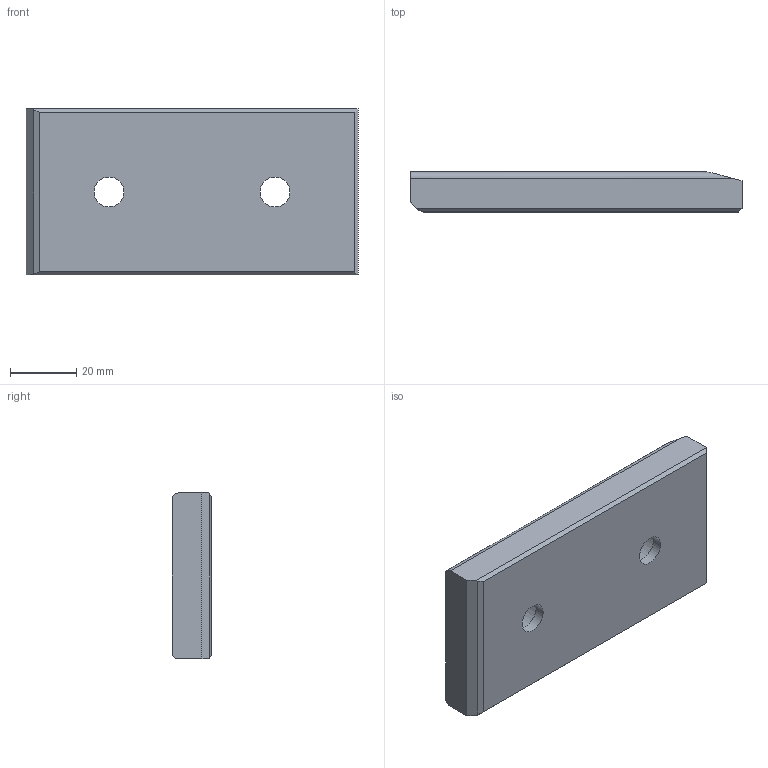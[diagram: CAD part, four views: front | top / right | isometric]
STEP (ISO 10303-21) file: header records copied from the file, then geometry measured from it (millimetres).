
FILE_DESCRIPTION(/* description */ ('Impex Ready, www.impex-ready.pl'),/* implementation_level */ '2;1');
FILE_NAME(/* name */ 'C:\Users\VIKKY\Nextcloud\SM\projekt 10 - części na stronę internetową\Pliki_3D_new\316 Płytki PG07\316 PG07_STEP\PG07.050100.ipt.step',/* time_stamp */ '2021-12-17T17:40:54+01:00',/* author */ ('SM'),/* organization */ (''),/* preprocessor_version */ 'ST-DEVELOPER v18.1',/* originating_system */ 'Autodesk Inventor 2021',/* authorisation */ '');
FILE_SCHEMA (('AUTOMOTIVE_DESIGN { 1 0 10303 214 3 1 1 }'));
Length unit declared in the file: millimetre
Products named in the file (1): PG07.050100
Bounding box: 100 x 12 x 50 mm (x, y, z)
Volume: 55159.7 mm3; surface area: 13732.5 mm2
Topology: 1 solids, 1 shells, 23 faces, 55 edges, 36 vertices
Faces by surface type: plane 14, cylinder 7, torus 2
Full cylindrical faces by diameter (mm): 9 x2, 15 x2
Entity records: 765 total; most frequent: CARTESIAN_POINT 123, DIRECTION 119, ORIENTED_EDGE 110, EDGE_CURVE 55, AXIS2_PLACEMENT_3D 42, VERTEX_POINT 36, LINE 35, VECTOR 35
